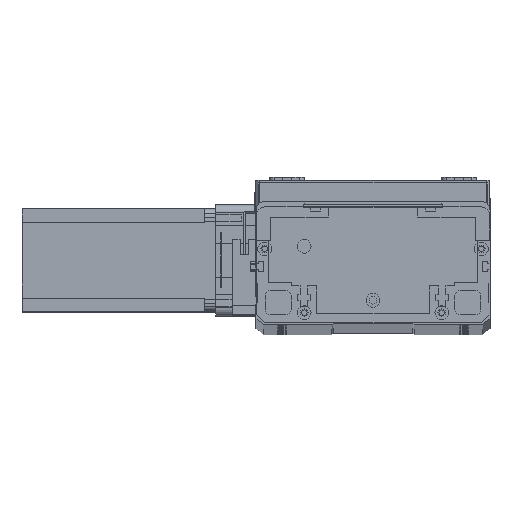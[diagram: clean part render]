
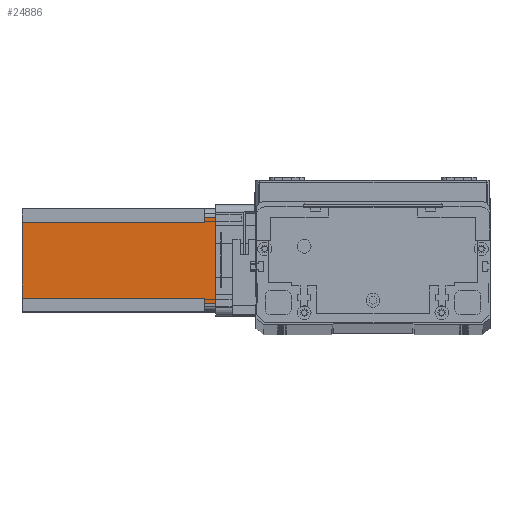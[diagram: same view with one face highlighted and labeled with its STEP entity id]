
A CAD part, top view. The second image highlights one B-rep face of the part: STEP entity #24886.
In plain terms, the highlighted planar face has unit normal (0, 0, 1) as drawn and (0, -1, 0) by its records, which use the part's own axes.
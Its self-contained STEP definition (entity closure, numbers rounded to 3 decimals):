
#558 = DIRECTION ( 'NONE',  ( 0., 0., 1. ) ) ;
#655 = LINE ( 'NONE', #9277, #18161 ) ;
#1091 = VECTOR ( 'NONE', #15828, 1000. ) ;
#1399 = CARTESIAN_POINT ( 'NONE',  ( 5., 0., -6.5 ) ) ;
#2801 = LINE ( 'NONE', #28047, #13808 ) ;
#3296 = ORIENTED_EDGE ( 'NONE', *, *, #4650, .T. ) ;
#3379 = EDGE_CURVE ( 'NONE', #8451, #6327, #7630, .T. ) ;
#3570 = EDGE_CURVE ( 'NONE', #6327, #27368, #2801, .T. ) ;
#3734 = EDGE_CURVE ( 'NONE', #10488, #22837, #16177, .T. ) ;
#3773 = VECTOR ( 'NONE', #8583, 1000. ) ;
#3890 = EDGE_CURVE ( 'NONE', #26081, #22837, #12099, .T. ) ;
#4105 = ORIENTED_EDGE ( 'NONE', *, *, #3734, .T. ) ;
#4178 = EDGE_CURVE ( 'NONE', #7584, #26081, #16150, .T. ) ;
#4650 = EDGE_CURVE ( 'NONE', #7584, #24381, #14083, .T. ) ;
#5021 = EDGE_CURVE ( 'NONE', #8451, #24381, #655, .T. ) ;
#5350 = EDGE_LOOP ( 'NONE', ( #23082, #6616, #23745, #4105, #19602, #16753, #3296, #18987 ) ) ;
#6327 = VERTEX_POINT ( 'NONE', #19050 ) ;
#6616 = ORIENTED_EDGE ( 'NONE', *, *, #3570, .T. ) ;
#7584 = VERTEX_POINT ( 'NONE', #24184 ) ;
#7630 = LINE ( 'NONE', #17717, #1091 ) ;
#8451 = VERTEX_POINT ( 'NONE', #19750 ) ;
#8583 = DIRECTION ( 'NONE',  ( 0., 0., 1. ) ) ;
#8770 = CARTESIAN_POINT ( 'NONE',  ( 8., 0., -112.5 ) ) ;
#8856 = DIRECTION ( 'NONE',  ( 1., 0., 0. ) ) ;
#9277 = CARTESIAN_POINT ( 'NONE',  ( 52., 0., -112.5 ) ) ;
#9625 = DIRECTION ( 'NONE',  ( 0., 0., -1. ) ) ;
#9941 = DIRECTION ( 'NONE',  ( 0., 0., -1. ) ) ;
#10359 = VECTOR ( 'NONE', #22616, 1000. ) ;
#10488 = VERTEX_POINT ( 'NONE', #21419 ) ;
#11550 = FACE_OUTER_BOUND ( 'NONE', #5350, .T. ) ;
#12085 = AXIS2_PLACEMENT_3D ( 'NONE', #26670, #22596, #9625 ) ;
#12099 = LINE ( 'NONE', #17937, #16509 ) ;
#12732 = DIRECTION ( 'NONE',  ( 1., 0., 0. ) ) ;
#13808 = VECTOR ( 'NONE', #558, 1000. ) ;
#14083 = LINE ( 'NONE', #18436, #24819 ) ;
#14445 = CARTESIAN_POINT ( 'NONE',  ( 52., 0., -112.5 ) ) ;
#15828 = DIRECTION ( 'NONE',  ( 1., 0., 0. ) ) ;
#16150 = LINE ( 'NONE', #8770, #3773 ) ;
#16177 = LINE ( 'NONE', #23883, #10359 ) ;
#16509 = VECTOR ( 'NONE', #16951, 1000. ) ;
#16753 = ORIENTED_EDGE ( 'NONE', *, *, #4178, .F. ) ;
#16754 = VECTOR ( 'NONE', #8856, 1000. ) ;
#16951 = DIRECTION ( 'NONE',  ( -1., 0., 0. ) ) ;
#17439 = LINE ( 'NONE', #23981, #16754 ) ;
#17717 = CARTESIAN_POINT ( 'NONE',  ( 52., 0., -6.5 ) ) ;
#17937 = CARTESIAN_POINT ( 'NONE',  ( 8., 0., -6.5 ) ) ;
#18161 = VECTOR ( 'NONE', #9941, 1000. ) ;
#18436 = CARTESIAN_POINT ( 'NONE',  ( 0., 0., -112.5 ) ) ;
#18987 = ORIENTED_EDGE ( 'NONE', *, *, #5021, .F. ) ;
#19050 = CARTESIAN_POINT ( 'NONE',  ( 55., 0., -6.5 ) ) ;
#19602 = ORIENTED_EDGE ( 'NONE', *, *, #3890, .F. ) ;
#19750 = CARTESIAN_POINT ( 'NONE',  ( 52., 0., -6.5 ) ) ;
#21419 = CARTESIAN_POINT ( 'NONE',  ( 5., 0., 0. ) ) ;
#21753 = EDGE_CURVE ( 'NONE', #10488, #27368, #17439, .T. ) ;
#22515 = PLANE ( 'NONE',  #12085 ) ;
#22596 = DIRECTION ( 'NONE',  ( 0., -1., 0. ) ) ;
#22616 = DIRECTION ( 'NONE',  ( 0., 0., -1. ) ) ;
#22837 = VERTEX_POINT ( 'NONE', #1399 ) ;
#23082 = ORIENTED_EDGE ( 'NONE', *, *, #3379, .T. ) ;
#23745 = ORIENTED_EDGE ( 'NONE', *, *, #21753, .F. ) ;
#23883 = CARTESIAN_POINT ( 'NONE',  ( 5., 0., -112.5 ) ) ;
#23981 = CARTESIAN_POINT ( 'NONE',  ( 0., 0., 0. ) ) ;
#24184 = CARTESIAN_POINT ( 'NONE',  ( 8., 0., -112.5 ) ) ;
#24381 = VERTEX_POINT ( 'NONE', #14445 ) ;
#24819 = VECTOR ( 'NONE', #12732, 1000. ) ;
#24886 = ADVANCED_FACE ( 'NONE', ( #11550 ), #22515, .T. ) ;
#26081 = VERTEX_POINT ( 'NONE', #26441 ) ;
#26197 = CARTESIAN_POINT ( 'NONE',  ( 55., 0., 0. ) ) ;
#26441 = CARTESIAN_POINT ( 'NONE',  ( 8., 0., -6.5 ) ) ;
#26670 = CARTESIAN_POINT ( 'NONE',  ( 0., 0., -112.5 ) ) ;
#27368 = VERTEX_POINT ( 'NONE', #26197 ) ;
#28047 = CARTESIAN_POINT ( 'NONE',  ( 55., 0., -112.5 ) ) ;
